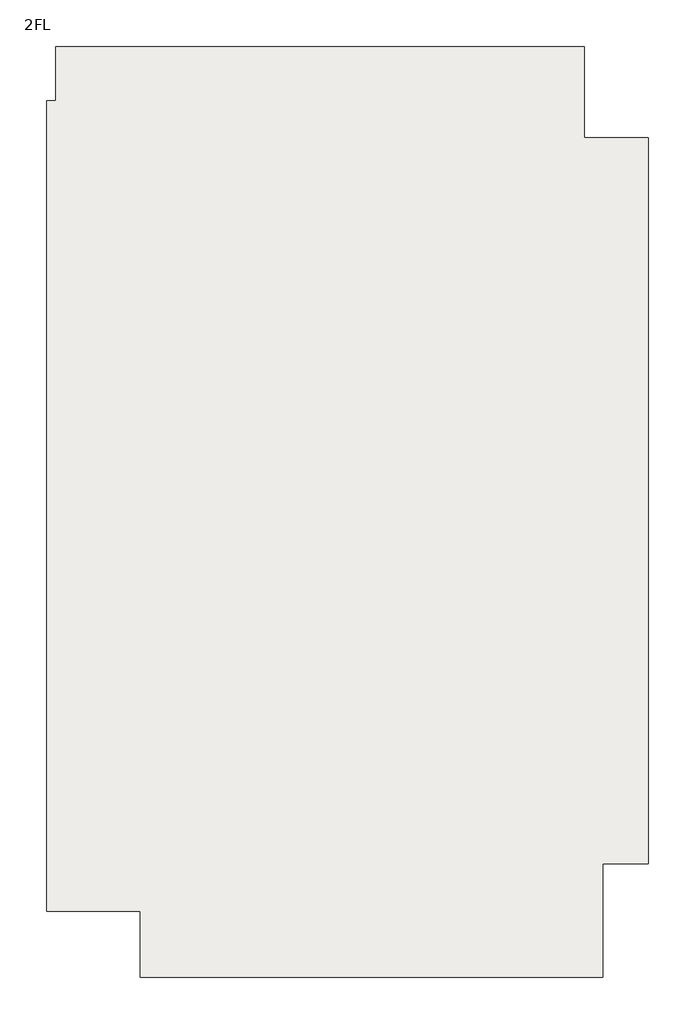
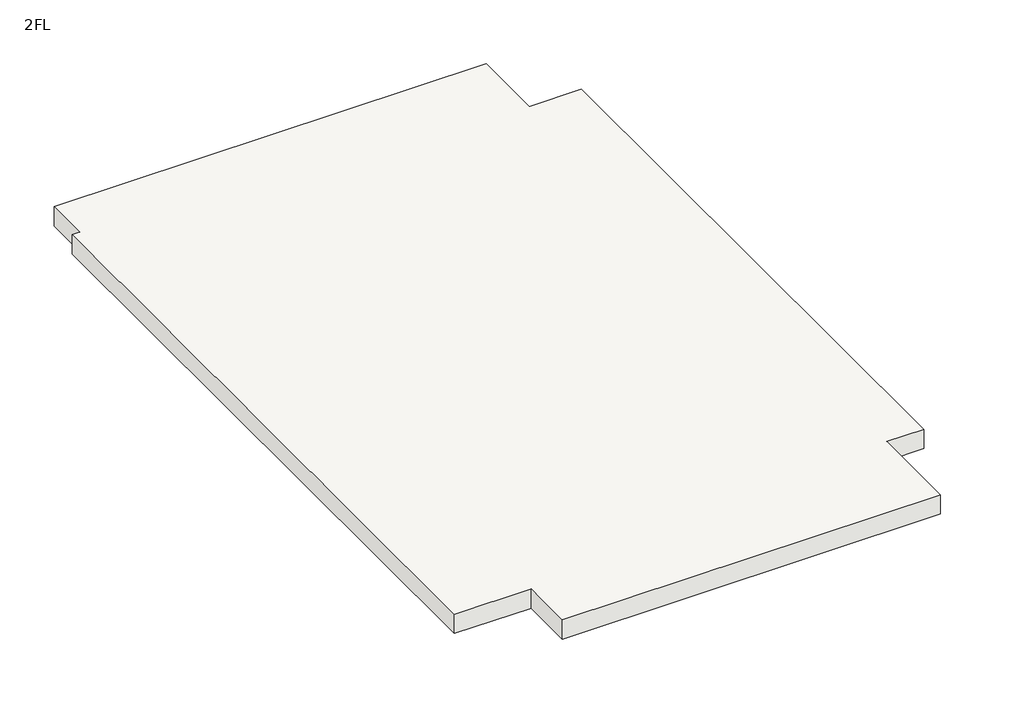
# One storey: 1 slab.
"""IFC4 building model written with IfcOpenShell, lengths in millimetres."""

from ifc_helpers import new_model, si_unit, frame, origin, place, context, project, spatial, polyline, outline, extrude, element, save

model = new_model("IFC4")

# Units and contexts
model_context = context("Model", 3, world=origin())
ifc_project = project(units=[si_unit("LENGTHUNIT", "METRE", prefix="MILLI")], contexts=[model_context])

# Site, building, storey
site = spatial("IfcSite", under=ifc_project)
building = spatial("IfcBuilding", under=site)
storey = spatial("IfcBuildingStorey", under=building, Name="2FL", Elevation=3300.0)

# Slab
placement = place(None, origin())
element("IfcSlab", 1, ObjectType="2FL_15cm", at=placement, inside=storey, context=model_context, shape_type="SweptSolid", body=[
    extrude(outline(polyline([(-726.8833533, 1332.1369238), (2031.778025, 1332.1369238), (2031.778025, 857.1369238), (2365.4977464, 857.1369238), (2365.4977464, -2932.3657238), (2127.7171048, -2932.3657238), (2127.7171048, -3524.327457), (-284.7018001, -3524.327457), (-284.7018001, -3179.3416193), (-774.5022536, -3179.3416193), (-774.5022536, 1048.967972), (-726.8833533, 1048.967972), (-726.8833533, 1332.1369238)])), frame((0.0, 0.0, 3170.0), z_axis=(0.0, 0.0, 1.0), x_axis=(1.0, 0.0, 0.0)), (0.0, 0.0, 1.0), 130.0),
])

save(model, "model.ifc")
